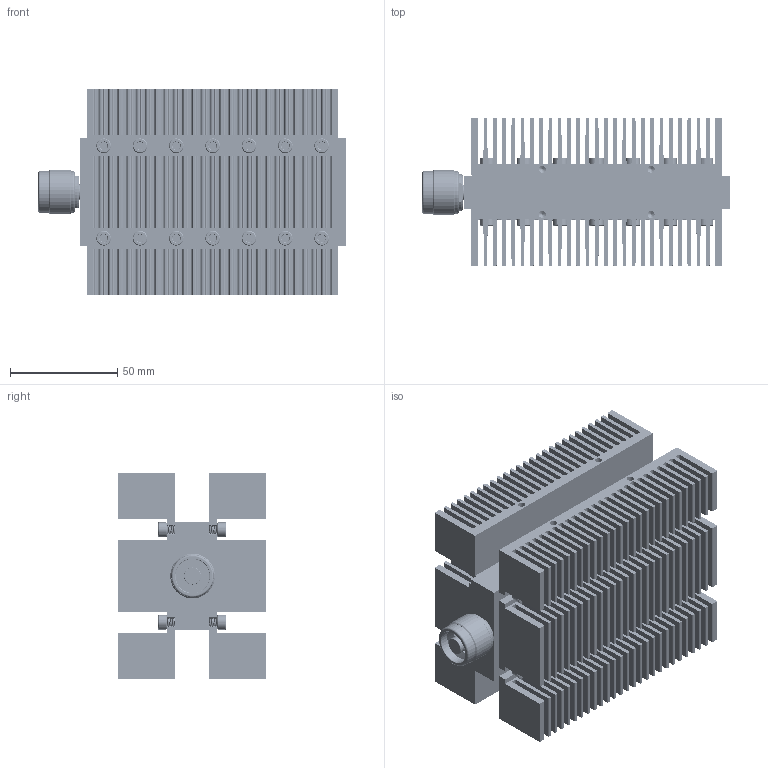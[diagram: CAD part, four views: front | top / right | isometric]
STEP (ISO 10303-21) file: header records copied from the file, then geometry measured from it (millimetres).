
FILE_DESCRIPTION(/* description */ (''),/* implementation_level */ '2;1');
FILE_NAME(/* name */ '100-6T-MN',/* time_stamp */ '2018-01-08T12:41:35-05:00',/* author */ ('Tom Smith'),/* organization */ ('Bird'),/* preprocessor_version */ 'ST-DEVELOPER v16.7',/* originating_system */ 'DEX',/* authorisation */ $);
FILE_SCHEMA (('AUTOMOTIVE_DESIGN {1 0 10303 214 3 1 1}'));
Products named in the file (1): 100-6T-MN
Bounding box: 143.51 x 69.34 x 96.52 mm (x, y, z)
Volume: 384747.4 mm3; surface area: 251815.5 mm2
Topology: 2 solids, 23 shells, 3477 faces, 11506 edges, 8112 vertices
Faces by surface type: cylinder 1258, plane 1037, bspline 868, cone 307, torus 7
Full cylindrical faces by diameter (mm): 3.3 x8, 3.454 x178, 4.801 x20, 6.858 x28, 7.112 x1, 7.188 x1, 8.001 x1, 8.382 x10, 8.433 x12, 9.525 x2, 14.859 x1, 15.875 x1, 16.129 x1, 17.424 x1, 17.704 x2, 18.644 x1, 19.837 x2, 20.879 x1
Entity records: 235615 total; most frequent: CARTESIAN_POINT 129670, ORIENTED_EDGE 21144, DIRECTION 11854, EDGE_CURVE 10572, VERTEX_POINT 7632, B_SPLINE_CURVE_WITH_KNOTS 5506, AXIS2_PLACEMENT_3D 4370, FACE_BOUND 3668
